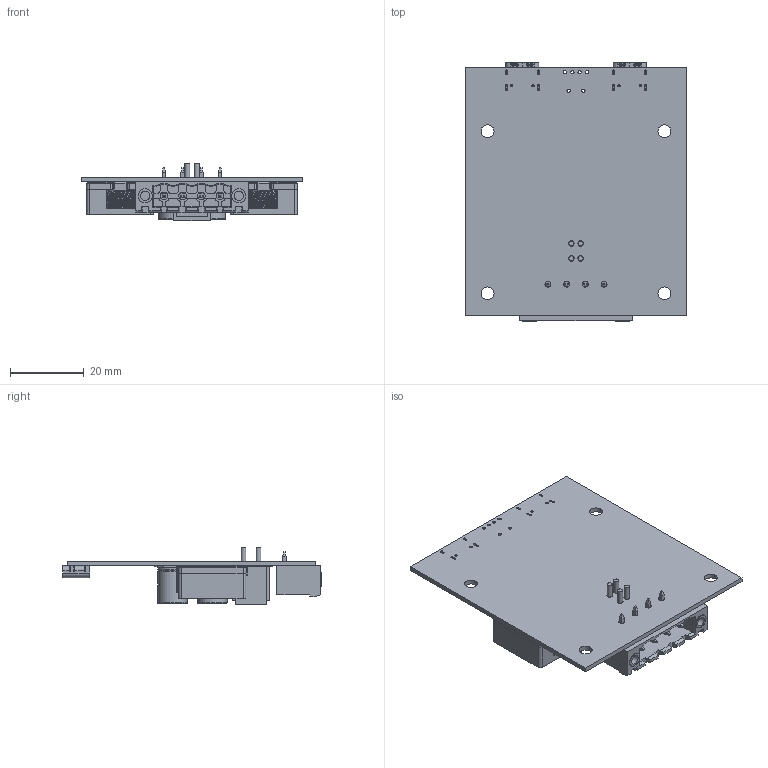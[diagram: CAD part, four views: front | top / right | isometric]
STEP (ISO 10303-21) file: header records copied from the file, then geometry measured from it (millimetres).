
FILE_DESCRIPTION(/* description */ ('Open CASCADE Model'),/* implementation_level */ '2;1');
FILE_NAME(/* name */ 'MSPD-2xPD140UM-AR v2.step',/* time_stamp */ '2024-12-10T09:08:59-05:00',/* author */ (''),/* organization */ (''),/* preprocessor_version */ 'ST-DEVELOPER v20',/* originating_system */ 'Autodesk Translation Framework v13.20.0.188',/* authorisation */ '');
FILE_SCHEMA (('AUTOMOTIVE_DESIGN { 1 0 10303 214 3 1 1 }'));
Products named in the file (25): PCB; BoardMSPD-2xPD140UM; Open CASCADE STEP translator 7.5 1.1.1; L2BMSPD-2xPD140UM; L2AMSPD-2xPD140UM; CSBX1809-330-560; C15BMSPD-2xPD140UM; C15AMSPD-2xPD140UM; CHK1MSPD-2xPD140UM; CM3440Z171R-10; Body; Pins; CM3440Z171B-10; Body_1; Leads; C21AMSPD-2xPD140UM; C21BMSPD-2xPD140UM; User Library-00001427 _ 220µF-35V [S8D0_10L2_9M1] FKserie Low ESR; J1AMSPD-2xPD140UM; J1BMSPD-2xPD140UM; User Library-USB - C_m; J_IN1MSPD-2xPD140UM; 395365004; Open CASCADE STEP translator 7.5 1.228.1.1; Open CASCADE STEP translator 7.5 1.228.1.2
Assembly tree (32 placements, depth 4):
  PCB
    BoardMSPD-2xPD140UM
      Open CASCADE STEP translator 7.5 1.1.1
    L2BMSPD-2xPD140UM
      CSBX1809-330-560
    L2AMSPD-2xPD140UM
      CSBX1809-330-560
    C15BMSPD-2xPD140UM
      User Library-00001427 _ 220µF-35V [S8D0_10L2_9M1] FKserie Low ESR
    C15AMSPD-2xPD140UM
      User Library-00001427 _ 220µF-35V [S8D0_10L2_9M1] FKserie Low ESR
    CHK1MSPD-2xPD140UM
      CM3440Z171R-10
        Body
        Pins
      CM3440Z171B-10
        Body_1
        Leads  x4
    C21AMSPD-2xPD140UM
      User Library-00001427 _ 220µF-35V [S8D0_10L2_9M1] FKserie Low ESR
    C21BMSPD-2xPD140UM
      User Library-00001427 _ 220µF-35V [S8D0_10L2_9M1] FKserie Low ESR
    J1AMSPD-2xPD140UM
      User Library-USB - C_m
    J1BMSPD-2xPD140UM
      User Library-USB - C_m
    J_IN1MSPD-2xPD140UM
      395365004
        Open CASCADE STEP translator 7.5 1.228.1.1
        Open CASCADE STEP translator 7.5 1.228.1.2
Bounding box: 60 x 70.21 x 15.59 mm (x, y, z)
Volume: 15770.8 mm3; surface area: 28295.7 mm2
Topology: 44 solids, 58 shells, 3127 faces, 8679 edges, 5690 vertices
Faces by surface type: plane 2263, cylinder 642, bspline 100, torus 68, cone 46, sphere 8
Full cylindrical faces by diameter (mm): 0.5 x4, 0.65 x4, 0.692 x4, 0.888 x6, 1.34 x16, 1.54 x4, 1.6 x4, 2.032 x5, 2.54 x5, 3.5 x4, 3.81 x2, 7.097 x2, 7.6 x4, 8 x8
Entity records: 72387 total; most frequent: CARTESIAN_POINT 27089, ORIENTED_EDGE 9374, DIRECTION 8914, EDGE_CURVE 4687, LINE 3690, VECTOR 3690, VERTEX_POINT 3070, AXIS2_PLACEMENT_3D 2612
